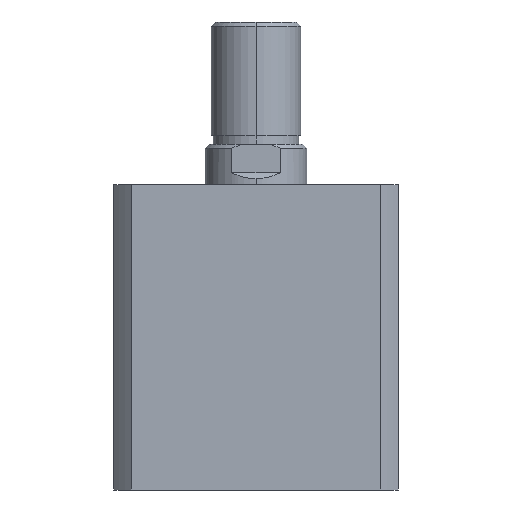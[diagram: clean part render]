
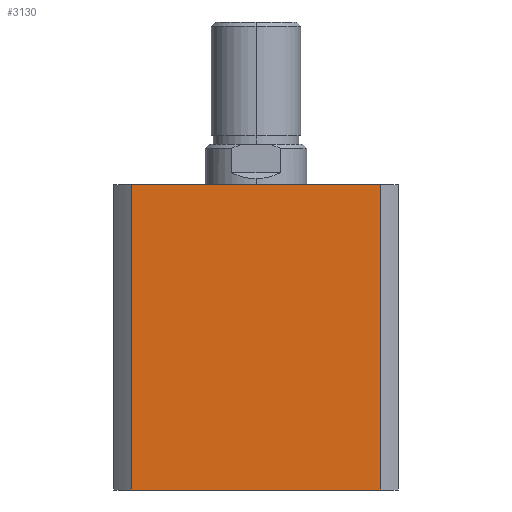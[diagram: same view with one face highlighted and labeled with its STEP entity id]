
A CAD part, left-side view. The second image highlights one B-rep face of the part: STEP entity #3130.
In plain terms, the highlighted planar face has unit normal (-1, 0, 0).
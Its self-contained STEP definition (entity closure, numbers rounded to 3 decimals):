
#65 = VERTEX_POINT ( 'NONE', #4454 ) ;
#66 = VERTEX_POINT ( 'NONE', #4453 ) ;
#86 = VERTEX_POINT ( 'NONE', #4434 ) ;
#87 = VERTEX_POINT ( 'NONE', #4433 ) ;
#1075 = AXIS2_PLACEMENT_3D ( 'NONE', #2423, #2427, #2428 ) ;
#1162 = LINE ( 'NONE', #2871, #1169 ) ;
#1164 = LINE ( 'NONE', #2869, #1167 ) ;
#1167 = VECTOR ( 'NONE', #2862, 1000. ) ;
#1168 = LINE ( 'NONE', #2877, #1171 ) ;
#1169 = VECTOR ( 'NONE', #2876, 1000. ) ;
#1171 = VECTOR ( 'NONE', #2879, 1000. ) ;
#2423 = CARTESIAN_POINT ( 'NONE',  ( -35., 0., 75. ) ) ;
#2424 = PLANE ( 'NONE',  #1075 ) ;
#2427 = DIRECTION ( 'NONE',  ( 1., 0., 0. ) ) ;
#2428 = DIRECTION ( 'NONE',  ( 0., 1., 0. ) ) ;
#2709 = DIRECTION ( 'NONE',  ( 0., -1., 0. ) ) ;
#2714 = CARTESIAN_POINT ( 'NONE',  ( -35., 0., 75. ) ) ;
#2862 = DIRECTION ( 'NONE',  ( 0., 0., -1. ) ) ;
#2869 = CARTESIAN_POINT ( 'NONE',  ( -35., 30.615, 75. ) ) ;
#2871 = CARTESIAN_POINT ( 'NONE',  ( -35., 0., 0. ) ) ;
#2876 = DIRECTION ( 'NONE',  ( 0., -1., 0. ) ) ;
#2877 = CARTESIAN_POINT ( 'NONE',  ( -35., -30.615, 75. ) ) ;
#2879 = DIRECTION ( 'NONE',  ( 0., 0., -1. ) ) ;
#3130 = ADVANCED_FACE ( 'NONE', ( #4966 ), #2424, .F. ) ;
#3362 = EDGE_CURVE ( 'NONE', #87, #86, #5116, .T. ) ;
#3401 = EDGE_CURVE ( 'NONE', #87, #66, #1164, .T. ) ;
#3402 = EDGE_CURVE ( 'NONE', #66, #65, #1162, .T. ) ;
#3403 = EDGE_CURVE ( 'NONE', #86, #65, #1168, .T. ) ;
#3840 = ORIENTED_EDGE ( 'NONE', *, *, #3362, .F. ) ;
#3856 = ORIENTED_EDGE ( 'NONE', *, *, #3402, .T. ) ;
#3859 = ORIENTED_EDGE ( 'NONE', *, *, #3403, .F. ) ;
#3897 = ORIENTED_EDGE ( 'NONE', *, *, #3401, .T. ) ;
#4058 = EDGE_LOOP ( 'NONE', ( #3856, #3859, #3840, #3897 ) ) ;
#4433 = CARTESIAN_POINT ( 'NONE',  ( -35., 30.615, 75. ) ) ;
#4434 = CARTESIAN_POINT ( 'NONE',  ( -35., -30.615, 75. ) ) ;
#4453 = CARTESIAN_POINT ( 'NONE',  ( -35., 30.615, 0. ) ) ;
#4454 = CARTESIAN_POINT ( 'NONE',  ( -35., -30.615, 0. ) ) ;
#4966 = FACE_OUTER_BOUND ( 'NONE', #4058, .T. ) ;
#5116 = LINE ( 'NONE', #2714, #5118 ) ;
#5118 = VECTOR ( 'NONE', #2709, 1000. ) ;
